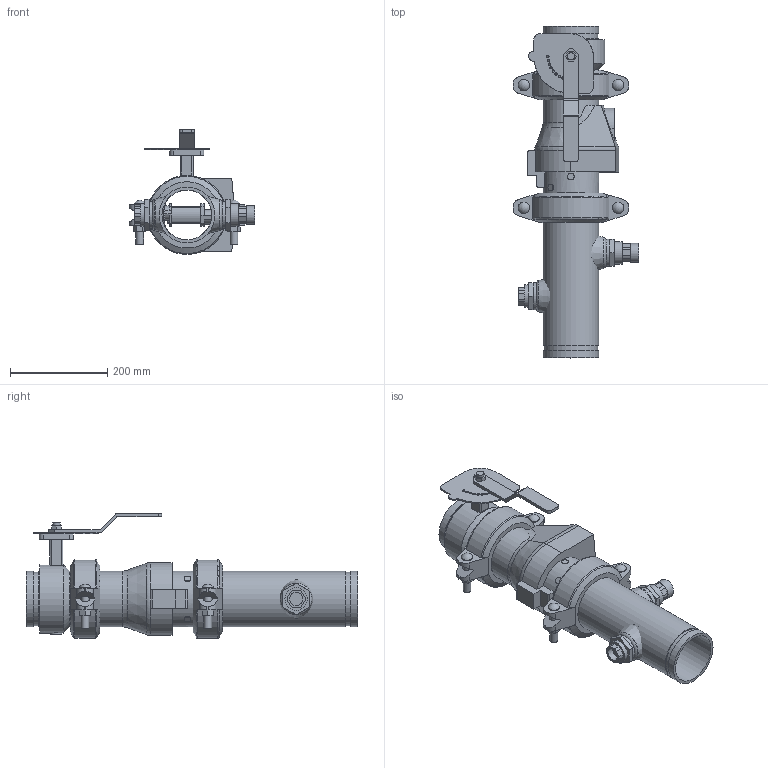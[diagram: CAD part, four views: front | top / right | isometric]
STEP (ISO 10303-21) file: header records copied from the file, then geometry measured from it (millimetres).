
FILE_DESCRIPTION(/* description */ ('VIC DVI PUMP DROP VERT S/380G (OGS)','CAx-IF Rec.Pracs.---Representation and Presentation of Product Manufacturing Information (PMI)---4.0---2014-10-13'),/* implementation_level */ '2;1');
FILE_NAME(/* name */ 'C:\Users\Public\Documents\Victaulic.Temp\A958\Victaulic_IPS_Vertical DVI_Series 380G (OGSxOGS)_04.0x04.0 (100x100).stp',/* time_stamp */ '2022-07-25T12:43:36+02:00',/* author */ ('Vjadhav'),/* organization */ ('Victaulic'),/* preprocessor_version */ 'ST-DEVELOPER v18',/* originating_system */ 'Autodesk Inventor 2020',/* authorisation */ '');
FILE_SCHEMA (('AP242_MANAGED_MODEL_BASED_3D_ENGINEERING_MIM_LF { 1 0 10303 442 1 1 4 }'));
Length unit declared in the file: inch
Products named in the file (7): 380G-04.0x04.0; Pipe-04.0x04.0; 177N-04.0; 761-04.0; 779-04.0; 923-04.0x0.75; 924-04.0x0.75
Assembly tree (7 placements, depth 2):
  380G-04.0x04.0
    Pipe-04.0x04.0
    177N-04.0  x2
    761-04.0
    779-04.0
    923-04.0x0.75
    924-04.0x0.75
Bounding box: 258.01 x 680.97 x 255.73 mm (x, y, z)
Volume: 4745598.1 mm3; surface area: 847072.9 mm2
Topology: 7 solids, 8 shells, 467 faces, 1209 edges, 805 vertices
Faces by surface type: plane 275, cylinder 158, cone 14, torus 14, sphere 4, bspline 2
Full cylindrical faces by diameter (mm): 4.826 x10, 8.636 x4, 13.716 x2, 14.986 x2, 15.875 x4, 22.86 x1, 23.495 x4, 26.67 x2, 38.608 x1, 45.974 x4, 55.118 x1, 55.626 x2, 101.6 x2, 102.26 x3, 110.084 x6, 114.3 x15, 139.7 x1
Entity records: 12816 total; most frequent: CARTESIAN_POINT 2584, DIRECTION 2107, ORIENTED_EDGE 1936, EDGE_CURVE 968, AXIS2_PLACEMENT_3D 792, VERTEX_POINT 645, LINE 523, VECTOR 523
